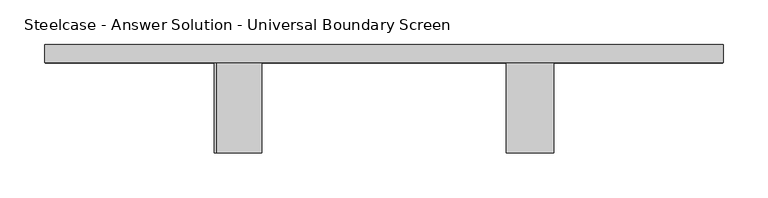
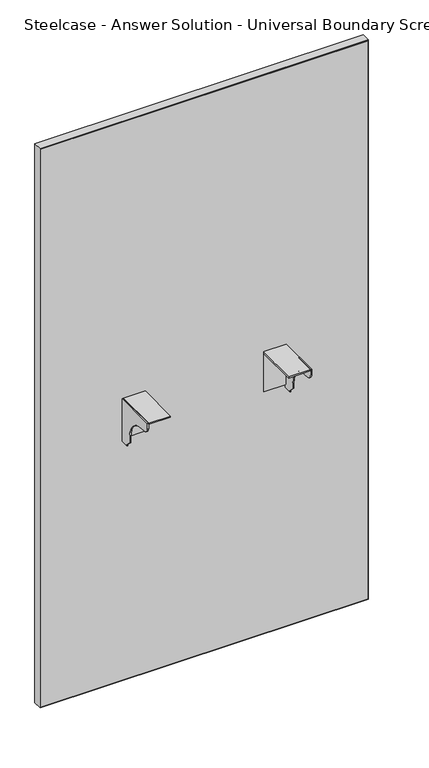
"""IFC4 building model written with IfcOpenShell, lengths in millimetres: furniture geometry, Steelcase - Answer Solution - Universal Boundary Screen : 54H x 30W."""

from ifc_helpers import new_model, si_unit, point, frame, frame_2d, origin, place, context, project, spatial, polyline, circle_curve, trimmed, segment, composite_curve, outline, extrude, source, transform, mapped, element, save


def steelcase_answer_solution_universal_boundary_screen_f7501c37(model_context):
    return source(origin(), model_context, "Body", "SweptSolid", [
        extrude(outline(polyline([(-103.1670434, 689.3558876), (-103.1670434, 692.1499758), (-1.5668826, 692.1499758), (-1.5668826, 595.5029317), (-4.1079736, 595.5029317), (-4.1079736, 689.3558876), (-103.1670434, 689.3558876)])), frame((667.2336711, 0.0, 0.0), z_axis=(1.0, 0.0, 0.0), x_axis=(0.0, 1.0, 0.0)), (0.0, 0.0, 1.0), 53.3444116),
        extrude(outline(composite_curve([segment(polyline([(-103.1670434, 679.2814802), (-103.1670434, 692.1499758), (-1.5668826, 692.1499758), (-1.5668826, 586.9634093), (-19.8232934, 586.9634093), (-19.8232934, 589.7574248), (-32.0458032, 601.9799346), (-32.0458032, 615.7814802)]), True, "CONTINUOUS"), segment(trimmed(circle_curve(frame_2d((-82.8458032, 615.7814802)), 50.8), [point((-32.0458032, 615.7814802))], [point((-82.8458032, 666.5814802))], True, "CARTESIAN"), True, "CONTINUOUS"), segment(polyline([(-82.8458032, 666.5814802), (-90.4670434, 666.5814802)]), True, "CONTINUOUS"), segment(trimmed(circle_curve(frame_2d((-90.4670434, 679.2814802)), 12.7), [point((-90.4670434, 666.5814802))], [point((-103.1670434, 679.2814802))], False, "CARTESIAN"), True, "CONTINUOUS")], self_intersect=False)), frame((718.0328959, 0.0, 0.0), z_axis=(1.0, 0.0, 0.0), x_axis=(0.0, 1.0, 0.0)), (0.0, 0.0, 1.0), 2.5451868),
        extrude(outline(polyline([(-103.1670434, 689.3558876), (-103.1670434, 692.1499758), (-1.5668826, 692.1499758), (-1.5668826, 595.5029317), (-4.1079736, 595.5029317), (-4.1079736, 689.3558876), (-103.1670434, 689.3558876)])), frame((342.1232694, 0.0, 0.0), z_axis=(1.0, 0.0, 0.0), x_axis=(0.0, 1.0, 0.0)), (0.0, 0.0, 1.0), 50.7992249),
        extrude(outline(composite_curve([segment(polyline([(-103.1670434, 679.2814802), (-103.1670434, 692.1499758), (-1.5668826, 692.1499758), (-1.5668826, 586.9634093), (-19.8232934, 586.9634093), (-19.8232934, 589.7574248), (-32.0458032, 601.9799346), (-32.0458032, 615.7814802)]), True, "CONTINUOUS"), segment(trimmed(circle_curve(frame_2d((-82.8458032, 615.7814802)), 50.8), [point((-32.0458032, 615.7814802))], [point((-82.8458032, 666.5814802))], True, "CARTESIAN"), True, "CONTINUOUS"), segment(polyline([(-82.8458032, 666.5814802), (-90.4670434, 666.5814802)]), True, "CONTINUOUS"), segment(trimmed(circle_curve(frame_2d((-90.4670434, 679.2814802)), 12.7), [point((-90.4670434, 666.5814802))], [point((-103.1670434, 679.2814802))], False, "CARTESIAN"), True, "CONTINUOUS")], self_intersect=False)), frame((339.5780827, 0.0, 0.0), z_axis=(1.0, 0.0, 0.0), x_axis=(0.0, 1.0, 0.0)), (0.0, 0.0, 1.0), 2.5451868),
        extrude(outline(polyline([(150.0706578, 18.9055112), (910.0855076, 18.9055112), (910.0855076, -1.5668826), (150.0706578, -1.5668826), (150.0706578, 18.9055112)])), frame((0.0, 0.0, 1.016), z_axis=(0.0, 0.0, 1.0), x_axis=(1.0, 0.0, 0.0)), (0.0, 0.0, 1.0), 1369.5914249),
        extrude(outline(polyline([(1371.6, 911.0780827), (1371.6, 149.0780827), (0.0, 149.0780827), (0.0, 911.0780827), (1371.6, 911.0780827)]), holes=[polyline([(1370.6074249, 910.0855076), (1.016, 910.0855076), (1.016, 150.0706578), (1370.6074249, 150.0706578), (1370.6074249, 910.0855076)])]), frame((0.0, -1.5668826, 0.0), z_axis=(0.0, 1.0, 0.0), x_axis=(0.0, 0.0, 1.0)), (0.0, 0.0, 1.0), 20.4723938),
    ])


if __name__ == "__main__":
    model = new_model("IFC4")
    model_context = context("Model", 3, world=origin())
    ifc_project = project(units=[si_unit("LENGTHUNIT", "METRE", prefix="MILLI")], contexts=[model_context])
    site = spatial("IfcSite", under=ifc_project)
    building = spatial("IfcBuilding", under=site)
    placement = place(None, origin())
    steelcase_answer_solution_universal_boundary_screen_shape = steelcase_answer_solution_universal_boundary_screen_f7501c37(model_context)
    element("IfcFurniture", 1, ObjectType="Steelcase - Answer Solution - Universal Boundary Screen : 54H x 30W", at=placement, inside=building, context=model_context, shape_type="MappedRepresentation", body=[
        mapped(steelcase_answer_solution_universal_boundary_screen_shape, transform((0.0, 0.0, 0.0), x_axis=(1.0, 0.0, 0.0), y_axis=(0.0, 1.0, 0.0), z_axis=(0.0, 0.0, 1.0))),
    ])
    save(model, "model.ifc")
